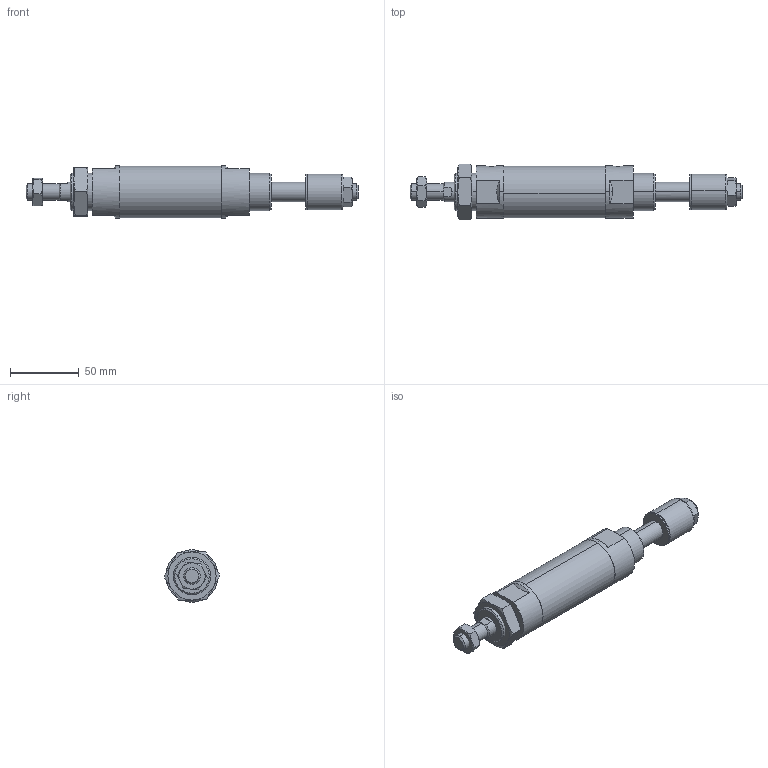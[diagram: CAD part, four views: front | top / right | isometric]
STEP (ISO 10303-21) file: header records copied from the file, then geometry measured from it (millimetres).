
FILE_DESCRIPTION (( 'STEP AP203' ), '1' );
FILE_NAME ('JGA7-32-25-N.STEP', '2016-04-20T01:57:46', ( '' ), ( '' ), 'SwSTEP 2.0', 'SolidWorks 2014', '' );
FILE_SCHEMA (( 'CONFIG_CONTROL_DESIGN' ));
Length unit declared in the file: millimetre
Products named in the file (7): M12x1.25-7mm; 32-25; JGA7-32A-25; JGA7-32-25-N; JGLH2-32B; JGA7-32-Turn; M27x2-10mm
Assembly tree (7 placements, depth 2):
  JGA7-32-25-N
    JGLH2-32B
    32-25
    JGA7-32A-25
    M12x1.25-7mm  x2
    M27x2-10mm
    JGA7-32-Turn
Bounding box: 241 x 40.4 x 38 mm (x, y, z)
Volume: 172931 mm3; surface area: 37278 mm2
Topology: 7 solids, 7 shells, 149 faces, 324 edges, 194 vertices
Faces by surface type: plane 51, cylinder 38, torus 38, cone 22
Entity records: 4721 total; most frequent: CARTESIAN_POINT 1225, DIRECTION 600, ORIENTED_EDGE 544, EDGE_CURVE 272, AXIS2_PLACEMENT_3D 257, VERTEX_POINT 166, EDGE_LOOP 142, FACE_OUTER_BOUND 127
